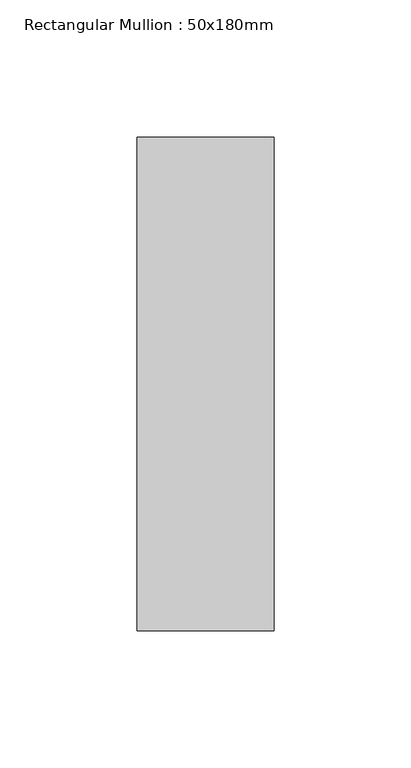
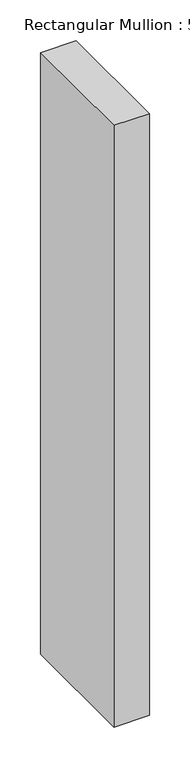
"""IFC4 building model written with IfcOpenShell, lengths in millimetres: member geometry, Rectangular Mullion : 50x180mm."""

from ifc_helpers import new_model, si_unit, frame, origin, place, context, project, spatial, polyline, outline, extrude, source, transform, mapped, element, save


def rectangular_mullion_50x180mm_138657df(model_context):
    return source(origin(), model_context, "Body", "SweptSolid", [
        extrude(outline(polyline([(0.0, 90.0), (0.0, -90.0), (-50.0, -90.0), (-50.0, 90.0), (0.0, 90.0)])), frame((0.0, 0.0, -900.0), z_axis=(0.0, 0.0, 1.0), x_axis=(1.0, 0.0, 0.0)), (0.0, 0.0, 1.0), 900.0),
    ])


if __name__ == "__main__":
    model = new_model("IFC4")
    model_context = context("Model", 3, world=origin())
    ifc_project = project(units=[si_unit("LENGTHUNIT", "METRE", prefix="MILLI")], contexts=[model_context])
    site = spatial("IfcSite", under=ifc_project)
    building = spatial("IfcBuilding", under=site)
    placement = place(None, origin())
    rectangular_mullion_50x180mm_shape = rectangular_mullion_50x180mm_138657df(model_context)
    element("IfcMember", 1, ObjectType="Rectangular Mullion : 50x180mm", at=placement, inside=building, context=model_context, shape_type="MappedRepresentation", body=[
        mapped(rectangular_mullion_50x180mm_shape, transform((0.0, 0.0, 0.0), x_axis=(1.0, 0.0, 0.0), y_axis=(0.0, 1.0, 0.0), z_axis=(0.0, 0.0, 1.0))),
    ])
    save(model, "model.ifc")
